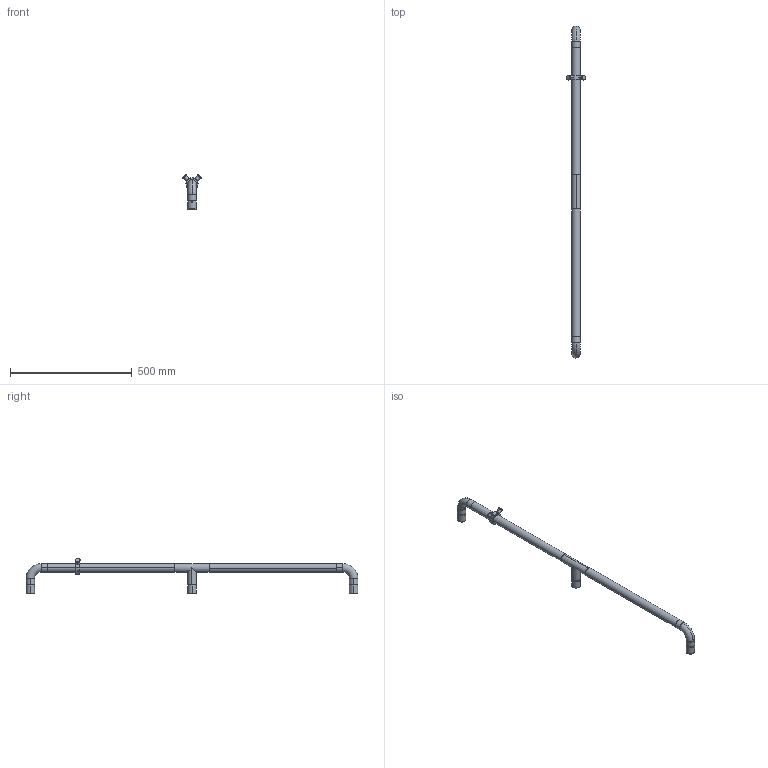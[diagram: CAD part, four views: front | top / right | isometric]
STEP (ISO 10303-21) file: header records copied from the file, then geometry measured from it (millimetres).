
FILE_DESCRIPTION (( 'STEP AP203' ), '1' );
FILE_NAME ('INFCL011365.STEP', '2026-03-03T08:01:48', ( '' ), ( '' ), 'SwSTEP 2.0', 'SolidWorks 2025', '' );
FILE_SCHEMA (( 'CONFIG_CONTROL_DESIGN' ));
Length unit declared in the file: millimetre
Products named in the file (7): INFRAC; INFCL011365; INFAPN; INFFIX; INFTU_525; INFRAT; INFFIX_Passante
Assembly tree (9 placements, depth 2):
  INFCL011365
    INFTU_525  x2
    INFRAC  x2
    INFRAT
    INFFIX
    INFFIX_Passante  x2
    INFAPN
Bounding box: 77.33 x 1365 x 143.67 mm (x, y, z)
Volume: 285640.3 mm3; surface area: 346421.4 mm2
Topology: 9 solids, 9 shells, 165 faces, 398 edges, 259 vertices
Faces by surface type: cylinder 79, plane 50, torus 24, cone 12
Entity records: 5420 total; most frequent: CARTESIAN_POINT 1265, DIRECTION 755, ORIENTED_EDGE 664, EDGE_CURVE 332, AXIS2_PLACEMENT_3D 315, VERTEX_POINT 215, EDGE_LOOP 167, CIRCLE 166
